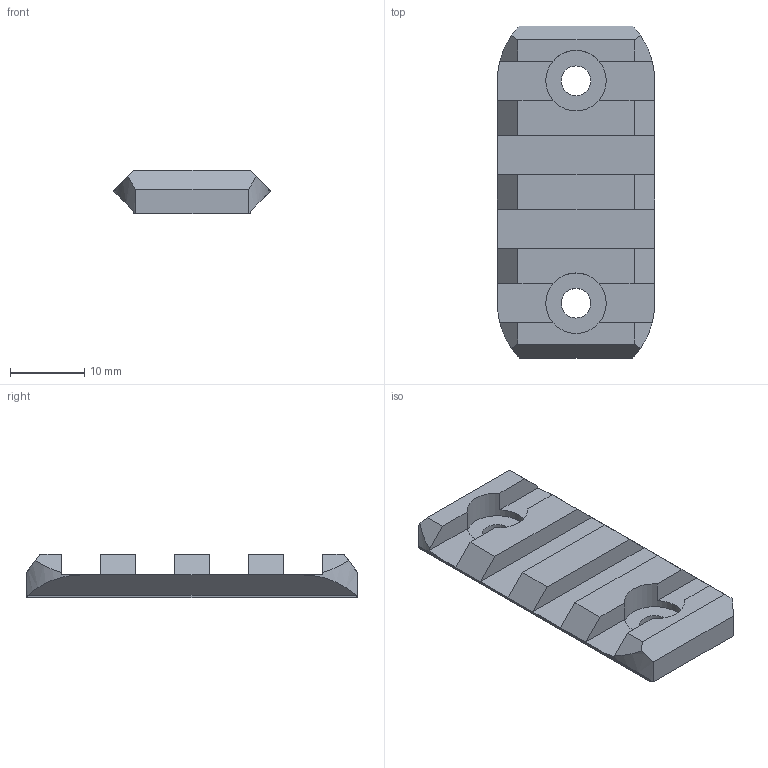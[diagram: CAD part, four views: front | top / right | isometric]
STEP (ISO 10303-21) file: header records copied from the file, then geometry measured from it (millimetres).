
FILE_DESCRIPTION(/* description */ (''),/* implementation_level */ '2;1');
FILE_NAME(/* name */ 'D:/Pew Pews/FGC-9_MkII_Stingray_Edition/Stingray Edition/.step files/6 - Accessories/M-lok to Pic Rail.step',/* time_stamp */ '2022-05-12T11:08:31-06:00',/* author */ (''),/* organization */ (''),/* preprocessor_version */ 'ST-DEVELOPER v18.1',/* originating_system */ 'Autodesk Translation Framework v10.10.0.1391',/* authorisation */ '');
FILE_SCHEMA (('AUTOMOTIVE_DESIGN { 1 0 10303 214 3 1 1 }'));
Length unit declared in the file: millimetre
Products named in the file (1): pic_rail_cut_complete
Bounding box: 21.2 x 44.75 x 5.82 mm (x, y, z)
Volume: 3349.9 mm3; surface area: 2668.4 mm2
Topology: 1 solids, 1 shells, 52 faces, 146 edges, 96 vertices
Faces by surface type: plane 44, cylinder 8
Full cylindrical faces by diameter (mm): 4 x2, 8.15 x2
Entity records: 1729 total; most frequent: CARTESIAN_POINT 295, ORIENTED_EDGE 292, DIRECTION 288, EDGE_CURVE 146, LINE 110, VECTOR 110, VERTEX_POINT 96, AXIS2_PLACEMENT_3D 89
